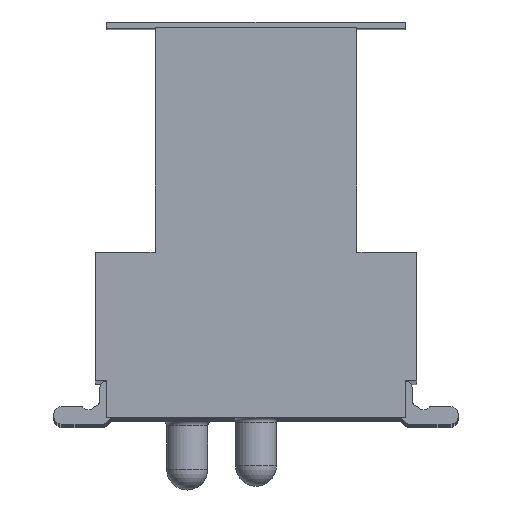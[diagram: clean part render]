
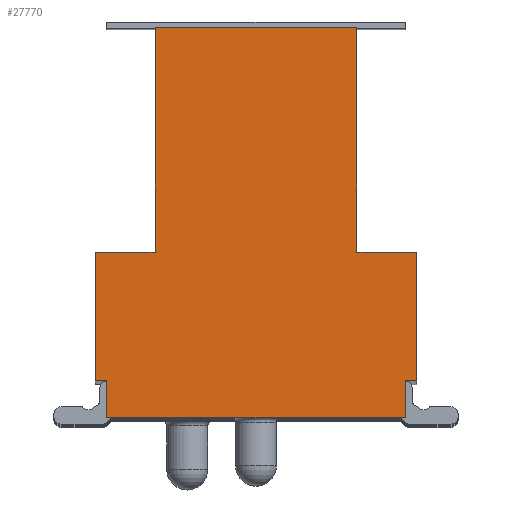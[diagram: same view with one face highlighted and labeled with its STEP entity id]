
A CAD part, top view. The second image highlights one B-rep face of the part: STEP entity #27770.
In plain terms, the highlighted planar face has unit normal (0, 0, 1).
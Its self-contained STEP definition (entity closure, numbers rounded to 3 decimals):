
#20428 = FACE_OUTER_BOUND ( 'NONE', #227663, .T. ) ;
#20434 = PLANE ( 'NONE',  #23496 ) ;
#20458 = CARTESIAN_POINT ( 'NONE',  ( 1.145, -3.899, 23.9 ) ) ;
#20460 = DIRECTION ( 'NONE',  ( 0., 0., -1. ) ) ;
#20461 = DIRECTION ( 'NONE',  ( -1., 0., 0. ) ) ;
#23496 = AXIS2_PLACEMENT_3D ( 'NONE', #20458, #20460, #20461 ) ;
#25788 = VERTEX_POINT ( 'NONE', #91565 ) ;
#25789 = VERTEX_POINT ( 'NONE', #91567 ) ;
#27770 = ADVANCED_FACE ( 'NONE', ( #20428 ), #20434, .F. ) ;
#37269 = CARTESIAN_POINT ( 'NONE',  ( -0.155, -0.299, 23.9 ) ) ;
#57775 = VECTOR ( 'NONE', #272580, 1000. ) ;
#57814 = VECTOR ( 'NONE', #272717, 1000. ) ;
#57831 = VECTOR ( 'NONE', #272816, 1000. ) ;
#57835 = VECTOR ( 'NONE', #272842, 1000. ) ;
#57856 = VECTOR ( 'NONE', #272960, 1000. ) ;
#57878 = VECTOR ( 'NONE', #273085, 1000. ) ;
#57901 = VECTOR ( 'NONE', #273229, 1000. ) ;
#57926 = VECTOR ( 'NONE', #273372, 1000. ) ;
#57983 = VECTOR ( 'NONE', #273710, 1000. ) ;
#57989 = VECTOR ( 'NONE', #273734, 1000. ) ;
#57993 = VECTOR ( 'NONE', #273761, 1000. ) ;
#91565 = CARTESIAN_POINT ( 'NONE',  ( -4.555, 4.601, 23.9 ) ) ;
#91567 = CARTESIAN_POINT ( 'NONE',  ( -0.155, 4.601, 23.9 ) ) ;
#97625 = EDGE_CURVE ( 'NONE', #270339, #270343, #272487, .T. ) ;
#97656 = EDGE_CURVE ( 'NONE', #270349, #270357, #272707, .T. ) ;
#97675 = EDGE_CURVE ( 'NONE', #270353, #270355, #272806, .T. ) ;
#97679 = EDGE_CURVE ( 'NONE', #270339, #270355, #272788, .T. ) ;
#97705 = EDGE_CURVE ( 'NONE', #270364, #270366, #272951, .T. ) ;
#97733 = EDGE_CURVE ( 'NONE', #270357, #270353, #273076, .T. ) ;
#97764 = EDGE_CURVE ( 'NONE', #270349, #270366, #273187, .T. ) ;
#97793 = EDGE_CURVE ( 'NONE', #270377, #270343, #273327, .T. ) ;
#97869 = EDGE_CURVE ( 'NONE', #256485, #270364, #273673, .T. ) ;
#97874 = EDGE_CURVE ( 'NONE', #256485, #25789, #273727, .T. ) ;
#97879 = EDGE_CURVE ( 'NONE', #270377, #25788, #273753, .T. ) ;
#104369 = EDGE_CURVE ( 'NONE', #25788, #25789, #107382, .T. ) ;
#107382 = LINE ( 'NONE', #107389, #204657 ) ;
#107389 = CARTESIAN_POINT ( 'NONE',  ( -0.155, 4.601, 23.9 ) ) ;
#107394 = DIRECTION ( 'NONE',  ( 1., 0., 0. ) ) ;
#190237 = ORIENTED_EDGE ( 'NONE', *, *, #97679, .T. ) ;
#190240 = ORIENTED_EDGE ( 'NONE', *, *, #97675, .F. ) ;
#190242 = ORIENTED_EDGE ( 'NONE', *, *, #97733, .F. ) ;
#190244 = ORIENTED_EDGE ( 'NONE', *, *, #97656, .F. ) ;
#190246 = ORIENTED_EDGE ( 'NONE', *, *, #97764, .T. ) ;
#190248 = ORIENTED_EDGE ( 'NONE', *, *, #97705, .F. ) ;
#190250 = ORIENTED_EDGE ( 'NONE', *, *, #97869, .F. ) ;
#190252 = ORIENTED_EDGE ( 'NONE', *, *, #97874, .T. ) ;
#190255 = ORIENTED_EDGE ( 'NONE', *, *, #104369, .F. ) ;
#190258 = ORIENTED_EDGE ( 'NONE', *, *, #97879, .F. ) ;
#190260 = ORIENTED_EDGE ( 'NONE', *, *, #97793, .T. ) ;
#190263 = ORIENTED_EDGE ( 'NONE', *, *, #97625, .F. ) ;
#204657 = VECTOR ( 'NONE', #107394, 1000. ) ;
#224968 = CARTESIAN_POINT ( 'NONE',  ( -5.855, -0.299, 23.9 ) ) ;
#224971 = CARTESIAN_POINT ( 'NONE',  ( -5.855, -3.099, 23.9 ) ) ;
#224977 = CARTESIAN_POINT ( 'NONE',  ( 0.895, -3.099, 23.9 ) ) ;
#224989 = CARTESIAN_POINT ( 'NONE',  ( -5.605, -3.099, 23.9 ) ) ;
#224995 = CARTESIAN_POINT ( 'NONE',  ( 0.895, -3.899, 23.9 ) ) ;
#224998 = CARTESIAN_POINT ( 'NONE',  ( -5.605, -3.899, 23.9 ) ) ;
#225010 = CARTESIAN_POINT ( 'NONE',  ( 1.145, -3.099, 23.9 ) ) ;
#225019 = CARTESIAN_POINT ( 'NONE',  ( 1.145, -0.299, 23.9 ) ) ;
#225031 = CARTESIAN_POINT ( 'NONE',  ( -4.555, -0.299, 23.9 ) ) ;
#227663 = EDGE_LOOP ( 'NONE', ( #190237, #190240, #190242, #190244, #190246, #190248, #190250, #190252, #190255, #190258, #190260, #190263 ) ) ;
#256485 = VERTEX_POINT ( 'NONE', #37269 ) ;
#270339 = VERTEX_POINT ( 'NONE', #224971 ) ;
#270343 = VERTEX_POINT ( 'NONE', #224968 ) ;
#270349 = VERTEX_POINT ( 'NONE', #224977 ) ;
#270353 = VERTEX_POINT ( 'NONE', #224998 ) ;
#270355 = VERTEX_POINT ( 'NONE', #224989 ) ;
#270357 = VERTEX_POINT ( 'NONE', #224995 ) ;
#270364 = VERTEX_POINT ( 'NONE', #225019 ) ;
#270366 = VERTEX_POINT ( 'NONE', #225010 ) ;
#270377 = VERTEX_POINT ( 'NONE', #225031 ) ;
#272487 = LINE ( 'NONE', #272572, #57775 ) ;
#272572 = CARTESIAN_POINT ( 'NONE',  ( -5.855, -3.899, 23.9 ) ) ;
#272580 = DIRECTION ( 'NONE',  ( 0., 1., 0. ) ) ;
#272707 = LINE ( 'NONE', #272713, #57814 ) ;
#272713 = CARTESIAN_POINT ( 'NONE',  ( 0.895, -3.099, 23.9 ) ) ;
#272717 = DIRECTION ( 'NONE',  ( 0., -1., 0. ) ) ;
#272772 = CARTESIAN_POINT ( 'NONE',  ( 1.145, -3.099, 23.9 ) ) ;
#272788 = LINE ( 'NONE', #272772, #57835 ) ;
#272806 = LINE ( 'NONE', #272813, #57831 ) ;
#272813 = CARTESIAN_POINT ( 'NONE',  ( -5.605, -3.099, 23.9 ) ) ;
#272816 = DIRECTION ( 'NONE',  ( 0., 1., 0. ) ) ;
#272842 = DIRECTION ( 'NONE',  ( 1., 0., 0. ) ) ;
#272951 = LINE ( 'NONE', #272957, #57856 ) ;
#272957 = CARTESIAN_POINT ( 'NONE',  ( 1.145, -3.899, 23.9 ) ) ;
#272960 = DIRECTION ( 'NONE',  ( 0., -1., 0. ) ) ;
#273076 = LINE ( 'NONE', #273082, #57878 ) ;
#273082 = CARTESIAN_POINT ( 'NONE',  ( 1.145, -3.899, 23.9 ) ) ;
#273085 = DIRECTION ( 'NONE',  ( -1., 0., 0. ) ) ;
#273185 = CARTESIAN_POINT ( 'NONE',  ( 1.145, -3.099, 23.9 ) ) ;
#273187 = LINE ( 'NONE', #273185, #57901 ) ;
#273229 = DIRECTION ( 'NONE',  ( 1., 0., 0. ) ) ;
#273327 = LINE ( 'NONE', #273366, #57926 ) ;
#273366 = CARTESIAN_POINT ( 'NONE',  ( -5.855, -0.299, 23.9 ) ) ;
#273372 = DIRECTION ( 'NONE',  ( -1., 0., 0. ) ) ;
#273647 = CARTESIAN_POINT ( 'NONE',  ( 1.145, -0.299, 23.9 ) ) ;
#273673 = LINE ( 'NONE', #273647, #57983 ) ;
#273710 = DIRECTION ( 'NONE',  ( 1., 0., 0. ) ) ;
#273727 = LINE ( 'NONE', #273731, #57989 ) ;
#273731 = CARTESIAN_POINT ( 'NONE',  ( -0.155, 4.601, 23.9 ) ) ;
#273734 = DIRECTION ( 'NONE',  ( 0., 1., 0. ) ) ;
#273753 = LINE ( 'NONE', #273758, #57993 ) ;
#273758 = CARTESIAN_POINT ( 'NONE',  ( -4.555, -3.899, 23.9 ) ) ;
#273761 = DIRECTION ( 'NONE',  ( 0., 1., 0. ) ) ;
